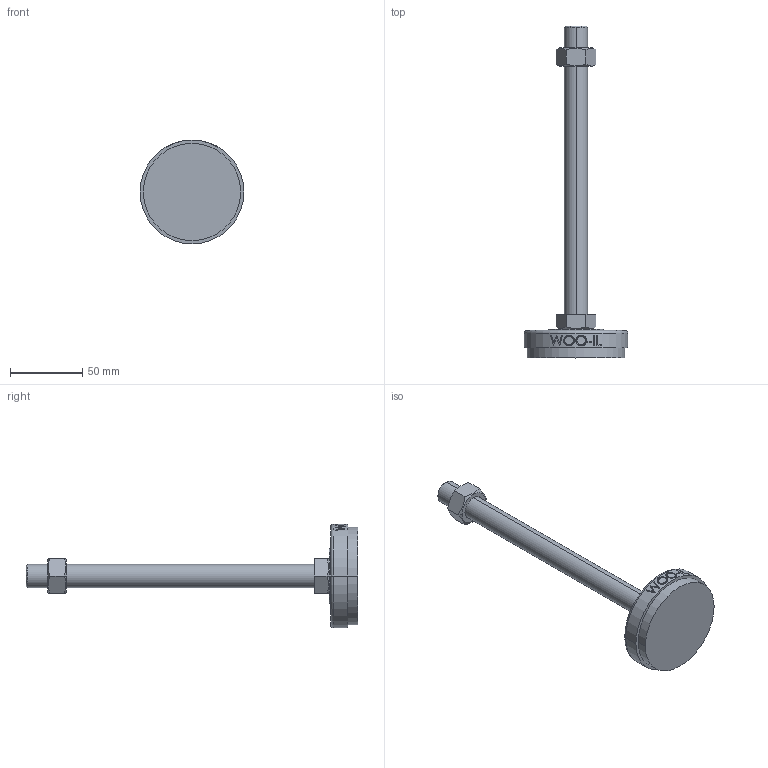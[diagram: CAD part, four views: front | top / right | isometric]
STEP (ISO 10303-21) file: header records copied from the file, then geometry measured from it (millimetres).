
FILE_DESCRIPTION (( 'STEP AP214' ), '1' );
FILE_NAME ('NS72-M16-200.step', '2021-01-11T05:47:43', ( '' ), ( '' ), 'SwSTEP 2.0', 'SolidWorks 2019', '' );
FILE_SCHEMA (( 'AUTOMOTIVE_DESIGN' ));
Length unit declared in the file: millimetre
Products named in the file (2): NS72-M16-200
Bounding box: 72 x 230 x 72 mm (x, y, z)
Volume: 123675.6 mm3; surface area: 26309.7 mm2
Topology: 3 solids, 3 shells, 96 faces, 223 edges, 144 vertices
Faces by surface type: plane 48, cylinder 18, bspline 16, cone 12, torus 2
Entity records: 4262 total; most frequent: CARTESIAN_POINT 2137, ORIENTED_EDGE 446, DIRECTION 381, EDGE_CURVE 223, VERTEX_POINT 144, AXIS2_PLACEMENT_3D 142, EDGE_LOOP 109, VECTOR 97
